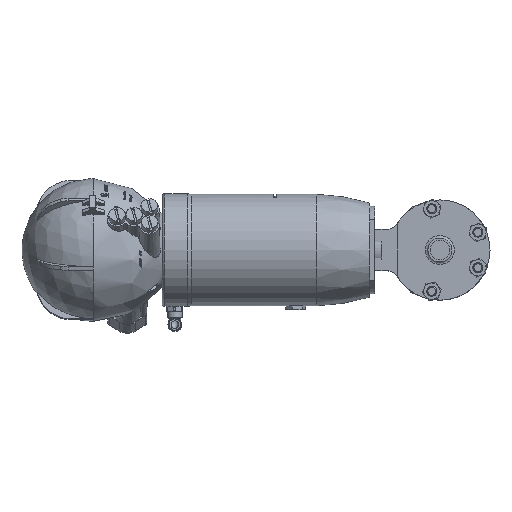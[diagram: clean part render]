
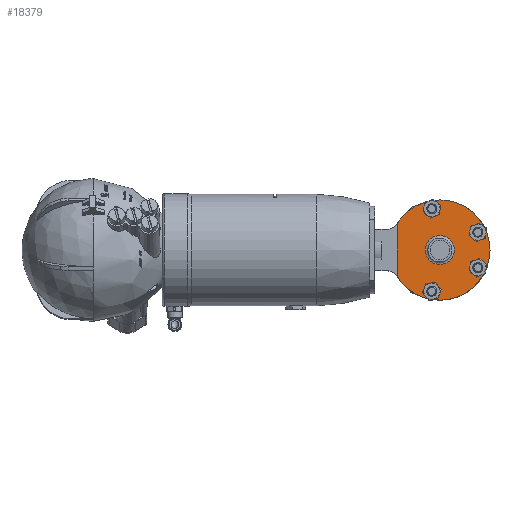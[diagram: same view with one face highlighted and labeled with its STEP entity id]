
A CAD part, top view. The second image highlights one B-rep face of the part: STEP entity #18379.
In plain terms, the highlighted planar face has unit normal (0, 0, 1) as drawn and (1, 0, 0) by its records, which use the part's own axes.
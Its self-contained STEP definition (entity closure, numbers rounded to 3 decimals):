
#1887=FACE_BOUND('',#3822,.T.);
#1888=FACE_BOUND('',#3823,.T.);
#1889=FACE_BOUND('',#3824,.T.);
#1890=FACE_BOUND('',#3825,.T.);
#1891=FACE_BOUND('',#3826,.T.);
#2017=PLANE('',#19737);
#2792=FACE_OUTER_BOUND('',#3821,.T.);
#3821=EDGE_LOOP('',(#12892,#12893));
#3822=EDGE_LOOP('',(#12894,#12895));
#3823=EDGE_LOOP('',(#12896,#12897));
#3824=EDGE_LOOP('',(#12898,#12899));
#3825=EDGE_LOOP('',(#12900,#12901));
#3826=EDGE_LOOP('',(#12902,#12903));
#4914=LINE('',#28264,#5979);
#5979=VECTOR('',#22308,10.);
#7062=CIRCLE('',#19724,40.);
#7063=CIRCLE('',#19726,4.25);
#7064=CIRCLE('',#19727,4.25);
#7065=CIRCLE('',#19729,4.25);
#7066=CIRCLE('',#19730,4.25);
#7067=CIRCLE('',#19732,4.25);
#7068=CIRCLE('',#19733,4.25);
#7069=CIRCLE('',#19735,4.25);
#7070=CIRCLE('',#19736,4.25);
#7071=CIRCLE('',#19738,11.525);
#7072=CIRCLE('',#19739,11.525);
#7995=VERTEX_POINT('',#28262);
#7996=VERTEX_POINT('',#28263);
#7997=VERTEX_POINT('',#28270);
#7998=VERTEX_POINT('',#28271);
#7999=VERTEX_POINT('',#28276);
#8000=VERTEX_POINT('',#28277);
#8001=VERTEX_POINT('',#28282);
#8002=VERTEX_POINT('',#28283);
#8003=VERTEX_POINT('',#28288);
#8004=VERTEX_POINT('',#28289);
#8005=VERTEX_POINT('',#28294);
#8006=VERTEX_POINT('',#28295);
#9923=EDGE_CURVE('',#7995,#7996,#4914,.T.);
#9926=EDGE_CURVE('',#7996,#7995,#7062,.T.);
#9927=EDGE_CURVE('',#7997,#7998,#7063,.T.);
#9928=EDGE_CURVE('',#7998,#7997,#7064,.T.);
#9930=EDGE_CURVE('',#7999,#8000,#7065,.T.);
#9931=EDGE_CURVE('',#8000,#7999,#7066,.T.);
#9933=EDGE_CURVE('',#8001,#8002,#7067,.T.);
#9934=EDGE_CURVE('',#8002,#8001,#7068,.T.);
#9936=EDGE_CURVE('',#8003,#8004,#7069,.T.);
#9937=EDGE_CURVE('',#8004,#8003,#7070,.T.);
#9939=EDGE_CURVE('',#8005,#8006,#7071,.T.);
#9940=EDGE_CURVE('',#8006,#8005,#7072,.T.);
#12892=ORIENTED_EDGE('',*,*,#9923,.T.);
#12893=ORIENTED_EDGE('',*,*,#9926,.T.);
#12894=ORIENTED_EDGE('',*,*,#9927,.T.);
#12895=ORIENTED_EDGE('',*,*,#9928,.T.);
#12896=ORIENTED_EDGE('',*,*,#9930,.T.);
#12897=ORIENTED_EDGE('',*,*,#9931,.T.);
#12898=ORIENTED_EDGE('',*,*,#9933,.T.);
#12899=ORIENTED_EDGE('',*,*,#9934,.T.);
#12900=ORIENTED_EDGE('',*,*,#9936,.T.);
#12901=ORIENTED_EDGE('',*,*,#9937,.T.);
#12902=ORIENTED_EDGE('',*,*,#9939,.F.);
#12903=ORIENTED_EDGE('',*,*,#9940,.F.);
#18379=ADVANCED_FACE('',(#2792,#1887,#1888,#1889,#1890,#1891),#2017,.T.);
#19724=AXIS2_PLACEMENT_3D('',#28268,#22313,#22314);
#19726=AXIS2_PLACEMENT_3D('',#28272,#22317,#22318);
#19727=AXIS2_PLACEMENT_3D('',#28273,#22319,#22320);
#19729=AXIS2_PLACEMENT_3D('',#28278,#22324,#22325);
#19730=AXIS2_PLACEMENT_3D('',#28279,#22326,#22327);
#19732=AXIS2_PLACEMENT_3D('',#28284,#22331,#22332);
#19733=AXIS2_PLACEMENT_3D('',#28285,#22333,#22334);
#19735=AXIS2_PLACEMENT_3D('',#28290,#22338,#22339);
#19736=AXIS2_PLACEMENT_3D('',#28291,#22340,#22341);
#19737=AXIS2_PLACEMENT_3D('',#28293,#22343,#22344);
#19738=AXIS2_PLACEMENT_3D('',#28296,#22345,#22346);
#19739=AXIS2_PLACEMENT_3D('',#28297,#22347,#22348);
#22308=DIRECTION('',(0.,0.,1.));
#22313=DIRECTION('center_axis',(1.,0.,0.));
#22314=DIRECTION('ref_axis',(0.,0.,-1.));
#22317=DIRECTION('center_axis',(-1.,0.,0.));
#22318=DIRECTION('ref_axis',(0.,0.,1.));
#22319=DIRECTION('center_axis',(-1.,0.,0.));
#22320=DIRECTION('ref_axis',(0.,0.,1.));
#22324=DIRECTION('center_axis',(-1.,0.,0.));
#22325=DIRECTION('ref_axis',(0.,0.,1.));
#22326=DIRECTION('center_axis',(-1.,0.,0.));
#22327=DIRECTION('ref_axis',(0.,0.,1.));
#22331=DIRECTION('center_axis',(-1.,0.,0.));
#22332=DIRECTION('ref_axis',(0.,0.,-1.));
#22333=DIRECTION('center_axis',(-1.,0.,0.));
#22334=DIRECTION('ref_axis',(0.,0.,-1.));
#22338=DIRECTION('center_axis',(-1.,0.,0.));
#22339=DIRECTION('ref_axis',(0.,0.,-1.));
#22340=DIRECTION('center_axis',(-1.,0.,0.));
#22341=DIRECTION('ref_axis',(0.,0.,-1.));
#22343=DIRECTION('center_axis',(1.,0.,0.));
#22344=DIRECTION('ref_axis',(0.,0.,-1.));
#22345=DIRECTION('center_axis',(1.,0.,0.));
#22346=DIRECTION('ref_axis',(0.,0.,-1.));
#22347=DIRECTION('center_axis',(1.,0.,0.));
#22348=DIRECTION('ref_axis',(0.,0.,-1.));
#28262=CARTESIAN_POINT('',(10.,34.,-21.071));
#28263=CARTESIAN_POINT('',(10.,34.,21.071));
#28264=CARTESIAN_POINT('',(10.,34.,-10.536));
#28268=CARTESIAN_POINT('Origin',(10.,0.,0.));
#28270=CARTESIAN_POINT('',(10.,6.392,37.135));
#28271=CARTESIAN_POINT('',(10.,6.392,28.635));
#28272=CARTESIAN_POINT('Origin',(10.,6.392,32.885));
#28273=CARTESIAN_POINT('Origin',(10.,6.392,32.885));
#28276=CARTESIAN_POINT('',(10.,-30.361,18.408));
#28277=CARTESIAN_POINT('',(10.,-30.361,9.908));
#28278=CARTESIAN_POINT('Origin',(10.,-30.361,14.158));
#28279=CARTESIAN_POINT('Origin',(10.,-30.361,14.158));
#28282=CARTESIAN_POINT('',(10.,6.392,-37.135));
#28283=CARTESIAN_POINT('',(10.,6.392,-28.635));
#28284=CARTESIAN_POINT('Origin',(10.,6.392,-32.885));
#28285=CARTESIAN_POINT('Origin',(10.,6.392,-32.885));
#28288=CARTESIAN_POINT('',(10.,-30.361,-18.408));
#28289=CARTESIAN_POINT('',(10.,-30.361,-9.908));
#28290=CARTESIAN_POINT('Origin',(10.,-30.361,-14.158));
#28291=CARTESIAN_POINT('Origin',(10.,-30.361,-14.158));
#28293=CARTESIAN_POINT('Origin',(10.,11.525,0.));
#28294=CARTESIAN_POINT('',(10.,11.525,0.));
#28295=CARTESIAN_POINT('',(10.,0.,11.525));
#28296=CARTESIAN_POINT('Origin',(10.,0.,0.));
#28297=CARTESIAN_POINT('Origin',(10.,0.,0.));
